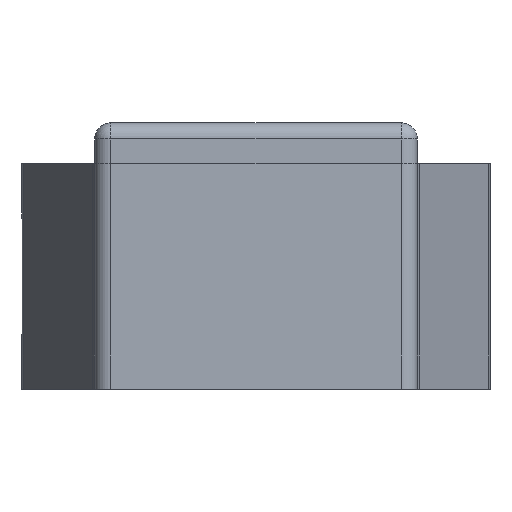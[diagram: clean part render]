
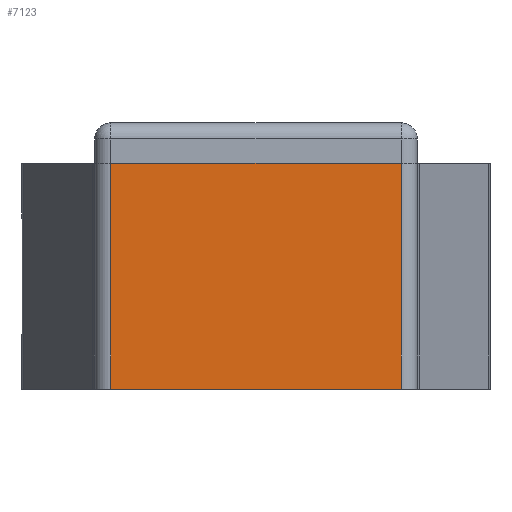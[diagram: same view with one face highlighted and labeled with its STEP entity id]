
A CAD part, front view. The second image highlights one B-rep face of the part: STEP entity #7123.
In plain terms, the highlighted planar face has unit normal (0, -1, 0).
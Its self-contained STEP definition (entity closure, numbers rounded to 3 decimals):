
#514 = EDGE_LOOP ( 'NONE', ( #8039, #14669, #14795, #720 ) ) ;
#720 = ORIENTED_EDGE ( 'NONE', *, *, #17655, .T. ) ;
#983 = DIRECTION ( 'NONE',  ( 0., 0., 1. ) ) ;
#2636 = CARTESIAN_POINT ( 'NONE',  ( -9., -27.5, -7. ) ) ;
#2909 = VECTOR ( 'NONE', #15933, 1000. ) ;
#3009 = CARTESIAN_POINT ( 'NONE',  ( -10., -27.5, -7. ) ) ;
#3377 = CARTESIAN_POINT ( 'NONE',  ( -9., -27.5, 7. ) ) ;
#3882 = LINE ( 'NONE', #8407, #2909 ) ;
#3974 = FACE_OUTER_BOUND ( 'NONE', #514, .T. ) ;
#4303 = EDGE_CURVE ( 'NONE', #15445, #5554, #3882, .T. ) ;
#5554 = VERTEX_POINT ( 'NONE', #19498 ) ;
#5864 = DIRECTION ( 'NONE',  ( 1., 0., 0. ) ) ;
#6029 = CARTESIAN_POINT ( 'NONE',  ( 9., -27.5, -7. ) ) ;
#7123 = ADVANCED_FACE ( 'NONE', ( #3974 ), #9973, .F. ) ;
#7908 = VECTOR ( 'NONE', #5864, 1000. ) ;
#8039 = ORIENTED_EDGE ( 'NONE', *, *, #19059, .T. ) ;
#8407 = CARTESIAN_POINT ( 'NONE',  ( -10., -27.5, 7. ) ) ;
#8503 = CARTESIAN_POINT ( 'NONE',  ( -10., -27.5, 7. ) ) ;
#8841 = CARTESIAN_POINT ( 'NONE',  ( 9., -27.5, 7. ) ) ;
#9356 = VERTEX_POINT ( 'NONE', #6029 ) ;
#9371 = DIRECTION ( 'NONE',  ( 0., 0., -1. ) ) ;
#9944 = VECTOR ( 'NONE', #983, 1000. ) ;
#9973 = PLANE ( 'NONE',  #14899 ) ;
#11243 = LINE ( 'NONE', #3377, #14541 ) ;
#11558 = DIRECTION ( 'NONE',  ( 0., 1., 0. ) ) ;
#11858 = LINE ( 'NONE', #3009, #7908 ) ;
#12232 = VERTEX_POINT ( 'NONE', #2636 ) ;
#12664 = EDGE_CURVE ( 'NONE', #9356, #5554, #19255, .T. ) ;
#14541 = VECTOR ( 'NONE', #9371, 1000. ) ;
#14669 = ORIENTED_EDGE ( 'NONE', *, *, #12664, .T. ) ;
#14795 = ORIENTED_EDGE ( 'NONE', *, *, #4303, .F. ) ;
#14899 = AXIS2_PLACEMENT_3D ( 'NONE', #8503, #11558, #17599 ) ;
#15445 = VERTEX_POINT ( 'NONE', #18010 ) ;
#15933 = DIRECTION ( 'NONE',  ( 1., 0., 0. ) ) ;
#17599 = DIRECTION ( 'NONE',  ( -1., 0., 0. ) ) ;
#17655 = EDGE_CURVE ( 'NONE', #15445, #12232, #11243, .T. ) ;
#18010 = CARTESIAN_POINT ( 'NONE',  ( -9., -27.5, 7. ) ) ;
#19059 = EDGE_CURVE ( 'NONE', #12232, #9356, #11858, .T. ) ;
#19255 = LINE ( 'NONE', #8841, #9944 ) ;
#19498 = CARTESIAN_POINT ( 'NONE',  ( 9., -27.5, 7. ) ) ;
